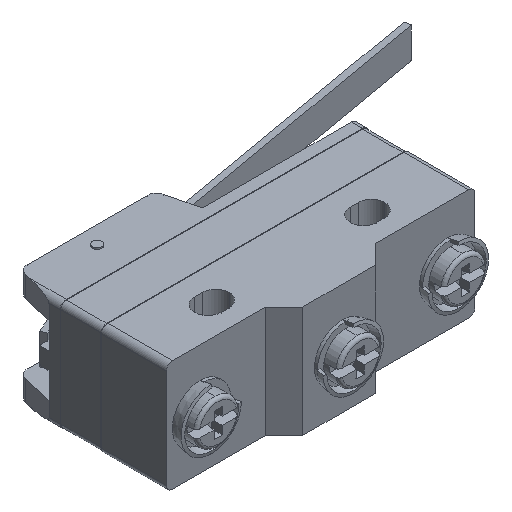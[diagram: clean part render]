
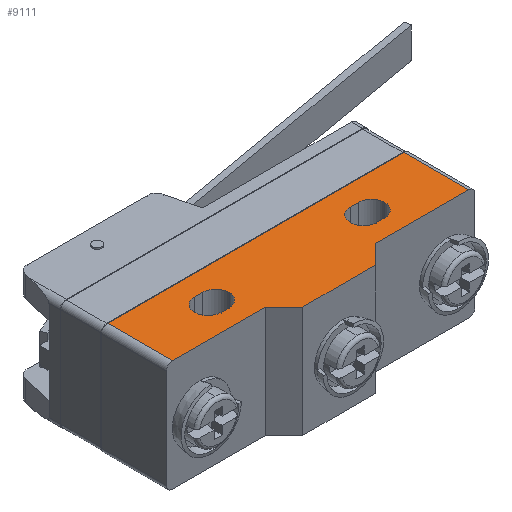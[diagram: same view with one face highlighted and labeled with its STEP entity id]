
A CAD part, isometric view. The second image highlights one B-rep face of the part: STEP entity #9111.
In plain terms, the highlighted planar face has unit normal (0, 0, 1).
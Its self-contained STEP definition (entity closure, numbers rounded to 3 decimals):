
#65 = EDGE_LOOP ( 'NONE', ( #777, #779, #778, #780, #781 ) ) ;
#66 = EDGE_LOOP ( 'NONE', ( #782, #784, #783, #785, #786 ) ) ;
#67 = EDGE_LOOP ( 'NONE', ( #787, #789, #788, #790, #791, #792, #793, #794 ) ) ;
#777 = ORIENTED_EDGE ( 'NONE', *, *, #9637, .T. ) ;
#778 = ORIENTED_EDGE ( 'NONE', *, *, #9638, .T. ) ;
#779 = ORIENTED_EDGE ( 'NONE', *, *, #9636, .T. ) ;
#780 = ORIENTED_EDGE ( 'NONE', *, *, #9565, .T. ) ;
#781 = ORIENTED_EDGE ( 'NONE', *, *, #9639, .T. ) ;
#782 = ORIENTED_EDGE ( 'NONE', *, *, #9640, .T. ) ;
#783 = ORIENTED_EDGE ( 'NONE', *, *, #9642, .T. ) ;
#784 = ORIENTED_EDGE ( 'NONE', *, *, #9641, .T. ) ;
#785 = ORIENTED_EDGE ( 'NONE', *, *, #9557, .T. ) ;
#786 = ORIENTED_EDGE ( 'NONE', *, *, #9643, .T. ) ;
#787 = ORIENTED_EDGE ( 'NONE', *, *, #9644, .F. ) ;
#788 = ORIENTED_EDGE ( 'NONE', *, *, #9646, .T. ) ;
#789 = ORIENTED_EDGE ( 'NONE', *, *, #9645, .T. ) ;
#790 = ORIENTED_EDGE ( 'NONE', *, *, #9647, .T. ) ;
#791 = ORIENTED_EDGE ( 'NONE', *, *, #9648, .T. ) ;
#792 = ORIENTED_EDGE ( 'NONE', *, *, #9649, .T. ) ;
#793 = ORIENTED_EDGE ( 'NONE', *, *, #9420, .T. ) ;
#794 = ORIENTED_EDGE ( 'NONE', *, *, #9650, .T. ) ;
#1544 = VERTEX_POINT ( 'NONE', #1966 ) ;
#1547 = VERTEX_POINT ( 'NONE', #1969 ) ;
#1602 = VERTEX_POINT ( 'NONE', #2024 ) ;
#1605 = VERTEX_POINT ( 'NONE', #2027 ) ;
#1672 = VERTEX_POINT ( 'NONE', #2094 ) ;
#1673 = VERTEX_POINT ( 'NONE', #2095 ) ;
#1730 = VERTEX_POINT ( 'NONE', #2152 ) ;
#1731 = VERTEX_POINT ( 'NONE', #2153 ) ;
#1732 = VERTEX_POINT ( 'NONE', #2154 ) ;
#1733 = VERTEX_POINT ( 'NONE', #2155 ) ;
#1734 = VERTEX_POINT ( 'NONE', #2156 ) ;
#1735 = VERTEX_POINT ( 'NONE', #2157 ) ;
#1736 = VERTEX_POINT ( 'NONE', #2158 ) ;
#1737 = VERTEX_POINT ( 'NONE', #2159 ) ;
#1738 = VERTEX_POINT ( 'NONE', #2160 ) ;
#1739 = VERTEX_POINT ( 'NONE', #2161 ) ;
#1740 = VERTEX_POINT ( 'NONE', #2162 ) ;
#1741 = VERTEX_POINT ( 'NONE', #2163 ) ;
#1966 = CARTESIAN_POINT ( 'NONE',  ( 13.25, 0.05, 9. ) ) ;
#1969 = CARTESIAN_POINT ( 'NONE',  ( 15.4, -2.1, 9. ) ) ;
#2024 = CARTESIAN_POINT ( 'NONE',  ( -9.8, -2.1, 9. ) ) ;
#2027 = CARTESIAN_POINT ( 'NONE',  ( -11.95, 0.05, 9. ) ) ;
#2094 = CARTESIAN_POINT ( 'NONE',  ( 23.95, -7.1, 9. ) ) ;
#2095 = CARTESIAN_POINT ( 'NONE',  ( 8.9, -7.1, 9. ) ) ;
#2152 = CARTESIAN_POINT ( 'NONE',  ( 13.25, -4.25, 9. ) ) ;
#2153 = CARTESIAN_POINT ( 'NONE',  ( 11.95, -4.25, 9. ) ) ;
#2154 = CARTESIAN_POINT ( 'NONE',  ( 11.95, 0.05, 9. ) ) ;
#2155 = CARTESIAN_POINT ( 'NONE',  ( -11.95, -4.25, 9. ) ) ;
#2156 = CARTESIAN_POINT ( 'NONE',  ( -13.25, -4.25, 9. ) ) ;
#2157 = CARTESIAN_POINT ( 'NONE',  ( -13.25, 0.05, 9. ) ) ;
#2158 = CARTESIAN_POINT ( 'NONE',  ( -23.95, 3.5, 9. ) ) ;
#2159 = CARTESIAN_POINT ( 'NONE',  ( 23.95, 3.5, 9. ) ) ;
#2160 = CARTESIAN_POINT ( 'NONE',  ( -23.95, -7.1, 9. ) ) ;
#2161 = CARTESIAN_POINT ( 'NONE',  ( -8.9, -7.1, 9. ) ) ;
#2162 = CARTESIAN_POINT ( 'NONE',  ( -5.9, -10.1, 9. ) ) ;
#2163 = CARTESIAN_POINT ( 'NONE',  ( 5.9, -10.1, 9. ) ) ;
#2769 = FACE_BOUND ( 'NONE', #65, .T. ) ;
#2771 = FACE_BOUND ( 'NONE', #66, .T. ) ;
#3011 = VECTOR ( 'NONE', #6989, 1000. ) ;
#3083 = FACE_OUTER_BOUND ( 'NONE', #67, .T. ) ;
#3085 = AXIS2_PLACEMENT_3D ( 'NONE', #4563, #4564, #4565 ) ;
#4562 = PLANE ( 'NONE',  #3085 ) ;
#4563 = CARTESIAN_POINT ( 'NONE',  ( 0., 0., 9. ) ) ;
#4564 = DIRECTION ( 'NONE',  ( 0., 0., -1. ) ) ;
#4565 = DIRECTION ( 'NONE',  ( -1., 0., 0. ) ) ;
#6987 = LINE ( 'NONE', #6988, #3011 ) ;
#6988 = CARTESIAN_POINT ( 'NONE',  ( 24.95, -7.1, 9. ) ) ;
#6989 = DIRECTION ( 'NONE',  ( 1., 0., 0. ) ) ;
#7405 = CARTESIAN_POINT ( 'NONE',  ( -11.95, -2.1, 9. ) ) ;
#7412 = DIRECTION ( 'NONE',  ( 0., 0., -1. ) ) ;
#7413 = DIRECTION ( 'NONE',  ( -1., 0., 0. ) ) ;
#7435 = CARTESIAN_POINT ( 'NONE',  ( 13.25, -2.1, 9. ) ) ;
#7436 = DIRECTION ( 'NONE',  ( 0., 0., -1. ) ) ;
#7437 = DIRECTION ( 'NONE',  ( -1., 0., 0. ) ) ;
#7861 = CARTESIAN_POINT ( 'NONE',  ( 11.95, -2.1, 9. ) ) ;
#7913 = DIRECTION ( 'NONE',  ( 0., 0., -1. ) ) ;
#7914 = DIRECTION ( 'NONE',  ( -1., 0., 0. ) ) ;
#7915 = CARTESIAN_POINT ( 'NONE',  ( 13.25, -2.1, 9. ) ) ;
#7916 = LINE ( 'NONE', #7917, #10543 ) ;
#7917 = CARTESIAN_POINT ( 'NONE',  ( 0., -4.25, 9. ) ) ;
#7918 = DIRECTION ( 'NONE',  ( -1., 0., 0. ) ) ;
#7919 = LINE ( 'NONE', #7920, #10544 ) ;
#7920 = CARTESIAN_POINT ( 'NONE',  ( 0., 0.05, 9. ) ) ;
#7921 = DIRECTION ( 'NONE',  ( 1., 0., 0. ) ) ;
#7922 = DIRECTION ( 'NONE',  ( 0., 0., -1. ) ) ;
#7923 = DIRECTION ( 'NONE',  ( -1., 0., 0. ) ) ;
#7924 = CARTESIAN_POINT ( 'NONE',  ( -13.25, -2.1, 9. ) ) ;
#7925 = LINE ( 'NONE', #7926, #10545 ) ;
#7926 = CARTESIAN_POINT ( 'NONE',  ( 0., -4.25, 9. ) ) ;
#7927 = DIRECTION ( 'NONE',  ( -1., 0., 0. ) ) ;
#7928 = DIRECTION ( 'NONE',  ( 0., 0., -1. ) ) ;
#7929 = DIRECTION ( 'NONE',  ( -1., 0., 0. ) ) ;
#7930 = CARTESIAN_POINT ( 'NONE',  ( -11.95, -2.1, 9. ) ) ;
#7931 = LINE ( 'NONE', #7932, #10546 ) ;
#7932 = CARTESIAN_POINT ( 'NONE',  ( 0., 0.05, 9. ) ) ;
#7933 = DIRECTION ( 'NONE',  ( 1., 0., 0. ) ) ;
#7934 = DIRECTION ( 'NONE',  ( 0., 0., -1. ) ) ;
#7935 = DIRECTION ( 'NONE',  ( -1., 0., 0. ) ) ;
#7937 = LINE ( 'NONE', #7938, #10548 ) ;
#7938 = CARTESIAN_POINT ( 'NONE',  ( -23.95, 3.5, 9. ) ) ;
#7939 = DIRECTION ( 'NONE',  ( 1., 0., 0. ) ) ;
#7940 = LINE ( 'NONE', #7941, #9885 ) ;
#7941 = CARTESIAN_POINT ( 'NONE',  ( -23.95, 0., 9. ) ) ;
#7942 = DIRECTION ( 'NONE',  ( 0., -1., 0. ) ) ;
#7943 = LINE ( 'NONE', #7944, #10114 ) ;
#7944 = CARTESIAN_POINT ( 'NONE',  ( -8.9, -7.1, 9. ) ) ;
#7945 = DIRECTION ( 'NONE',  ( 1., 0., 0. ) ) ;
#7946 = LINE ( 'NONE', #7947, #9879 ) ;
#7947 = CARTESIAN_POINT ( 'NONE',  ( -5.9, -10.1, 9. ) ) ;
#7948 = DIRECTION ( 'NONE',  ( 0.707, -0.707, 0. ) ) ;
#7949 = LINE ( 'NONE', #7950, #10409 ) ;
#7950 = CARTESIAN_POINT ( 'NONE',  ( 5.9, -10.1, 9. ) ) ;
#7951 = DIRECTION ( 'NONE',  ( 1., 0., 0. ) ) ;
#7952 = LINE ( 'NONE', #7953, #10482 ) ;
#7953 = CARTESIAN_POINT ( 'NONE',  ( 8.9, -7.1, 9. ) ) ;
#7954 = DIRECTION ( 'NONE',  ( 0.707, 0.707, 0. ) ) ;
#7955 = LINE ( 'NONE', #7956, #10504 ) ;
#7956 = CARTESIAN_POINT ( 'NONE',  ( 23.95, 0., 9. ) ) ;
#7957 = DIRECTION ( 'NONE',  ( 0., 1., 0. ) ) ;
#9111 = ADVANCED_FACE ( 'NONE', ( #2769, #2771, #3083 ), #4562, .F. ) ;
#9420 = EDGE_CURVE ( 'NONE', #1673, #1672, #6987, .T. ) ;
#9557 = EDGE_CURVE ( 'NONE', #1605, #1602, #10205, .T. ) ;
#9565 = EDGE_CURVE ( 'NONE', #1544, #1547, #10211, .T. ) ;
#9636 = EDGE_CURVE ( 'NONE', #1731, #1732, #10235, .T. ) ;
#9637 = EDGE_CURVE ( 'NONE', #1730, #1731, #7916, .T. ) ;
#9638 = EDGE_CURVE ( 'NONE', #1732, #1544, #7919, .T. ) ;
#9639 = EDGE_CURVE ( 'NONE', #1547, #1730, #10237, .T. ) ;
#9640 = EDGE_CURVE ( 'NONE', #1733, #1734, #7925, .T. ) ;
#9641 = EDGE_CURVE ( 'NONE', #1734, #1735, #10238, .T. ) ;
#9642 = EDGE_CURVE ( 'NONE', #1735, #1605, #7931, .T. ) ;
#9643 = EDGE_CURVE ( 'NONE', #1602, #1733, #10240, .T. ) ;
#9644 = EDGE_CURVE ( 'NONE', #1736, #1737, #7937, .T. ) ;
#9645 = EDGE_CURVE ( 'NONE', #1736, #1738, #7940, .T. ) ;
#9646 = EDGE_CURVE ( 'NONE', #1738, #1739, #7943, .T. ) ;
#9647 = EDGE_CURVE ( 'NONE', #1739, #1740, #7946, .T. ) ;
#9648 = EDGE_CURVE ( 'NONE', #1740, #1741, #7949, .T. ) ;
#9649 = EDGE_CURVE ( 'NONE', #1741, #1673, #7952, .T. ) ;
#9650 = EDGE_CURVE ( 'NONE', #1672, #1737, #7955, .T. ) ;
#9879 = VECTOR ( 'NONE', #7948, 1000. ) ;
#9885 = VECTOR ( 'NONE', #7942, 1000. ) ;
#10015 = AXIS2_PLACEMENT_3D ( 'NONE', #7435, #7436, #7437 ) ;
#10052 = AXIS2_PLACEMENT_3D ( 'NONE', #7405, #7412, #7413 ) ;
#10114 = VECTOR ( 'NONE', #7945, 1000. ) ;
#10205 = CIRCLE ( 'NONE', #10052, 2.15 ) ;
#10211 = CIRCLE ( 'NONE', #10015, 2.15 ) ;
#10235 = CIRCLE ( 'NONE', #10532, 2.15 ) ;
#10237 = CIRCLE ( 'NONE', #10503, 2.15 ) ;
#10238 = CIRCLE ( 'NONE', #10513, 2.15 ) ;
#10240 = CIRCLE ( 'NONE', #10539, 2.15 ) ;
#10409 = VECTOR ( 'NONE', #7951, 1000. ) ;
#10482 = VECTOR ( 'NONE', #7954, 1000. ) ;
#10503 = AXIS2_PLACEMENT_3D ( 'NONE', #7915, #7922, #7923 ) ;
#10504 = VECTOR ( 'NONE', #7957, 1000. ) ;
#10513 = AXIS2_PLACEMENT_3D ( 'NONE', #7924, #7928, #7929 ) ;
#10532 = AXIS2_PLACEMENT_3D ( 'NONE', #7861, #7913, #7914 ) ;
#10539 = AXIS2_PLACEMENT_3D ( 'NONE', #7930, #7934, #7935 ) ;
#10543 = VECTOR ( 'NONE', #7918, 1000. ) ;
#10544 = VECTOR ( 'NONE', #7921, 1000. ) ;
#10545 = VECTOR ( 'NONE', #7927, 1000. ) ;
#10546 = VECTOR ( 'NONE', #7933, 1000. ) ;
#10548 = VECTOR ( 'NONE', #7939, 1000. ) ;
